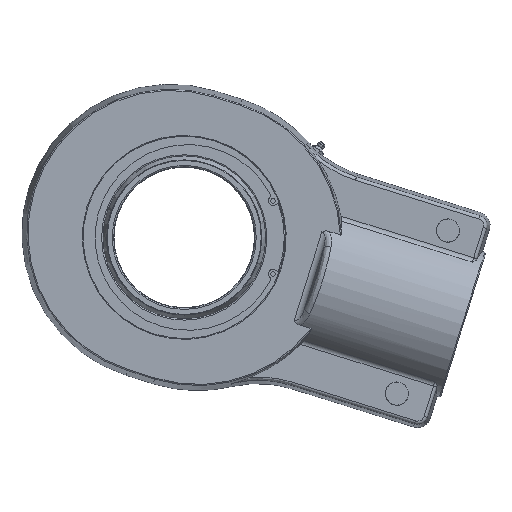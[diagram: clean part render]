
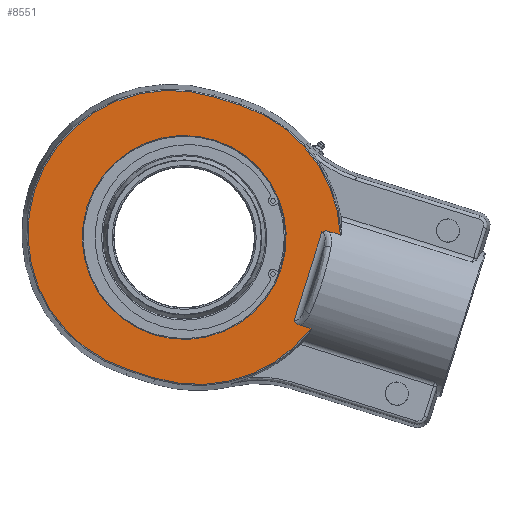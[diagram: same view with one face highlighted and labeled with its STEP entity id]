
A CAD part, left-side view. The second image highlights one B-rep face of the part: STEP entity #8551.
In plain terms, the highlighted planar face has unit normal (-1, 0, 0) as drawn and (0, 0, -1) by its records, which use the part's own axes.
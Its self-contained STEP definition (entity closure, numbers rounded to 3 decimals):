
#3686=CARTESIAN_POINT('',(-43.635,-131.852,-51.5));
#3687=VERTEX_POINT('',#3686);
#3703=CARTESIAN_POINT('',(-43.635,-121.063,-51.5));
#3704=VERTEX_POINT('',#3703);
#3705=CARTESIAN_POINT('',(-43.635,-121.063,-51.5));
#3706=DIRECTION('',(0.,-1.0,0.));
#3707=VECTOR('',#3706,10.789);
#3708=LINE('',#3705,#3707);
#3709=EDGE_CURVE('',#3704,#3687,#3708,.T.);
#3736=CARTESIAN_POINT('',(43.635,-121.063,-51.5));
#3737=VERTEX_POINT('',#3736);
#3755=CARTESIAN_POINT('',(43.635,-131.852,-51.5));
#3756=VERTEX_POINT('',#3755);
#3757=CARTESIAN_POINT('',(43.635,-131.852,-51.5));
#3758=DIRECTION('',(0.0,1.0,0.0));
#3759=VECTOR('',#3758,10.789);
#3760=LINE('',#3757,#3759);
#3761=EDGE_CURVE('',#3756,#3737,#3760,.T.);
#4496=CARTESIAN_POINT('',(0.0,90.7,-51.5));
#4497=VERTEX_POINT('',#4496);
#4498=CARTESIAN_POINT('',(0.0,0.0,-51.5));
#4499=DIRECTION('',(0.0,0.0,1.0));
#4500=DIRECTION('',(0.0,1.0,0.0));
#4501=AXIS2_PLACEMENT_3D('',#4498,#4499,#4500);
#4502=CIRCLE('',#4501,90.7);
#4503=EDGE_CURVE('',#4497,#4497,#4502,.T.);
#8347=CARTESIAN_POINT('',(127.078,-12.5,-51.5));
#8348=VERTEX_POINT('',#8347);
#8366=CARTESIAN_POINT('',(0.,-12.5,-51.5));
#8367=DIRECTION('',(0.0,0.0,1.0));
#8368=DIRECTION('',(0.819,-0.574,0.0));
#8369=AXIS2_PLACEMENT_3D('',#8366,#8367,#8368);
#8370=CIRCLE('',#8369,127.078);
#8371=EDGE_CURVE('',#3756,#8348,#8370,.T.);
#8381=CARTESIAN_POINT('',(127.078,12.5,-51.5));
#8382=VERTEX_POINT('',#8381);
#8399=CARTESIAN_POINT('',(127.078,-12.5,-51.5));
#8400=DIRECTION('',(0.0,1.0,0.0));
#8401=VECTOR('',#8400,25.);
#8402=LINE('',#8399,#8401);
#8403=EDGE_CURVE('',#8348,#8382,#8402,.T.);
#8413=CARTESIAN_POINT('',(-127.078,12.5,-51.5));
#8414=VERTEX_POINT('',#8413);
#8432=CARTESIAN_POINT('',(0.,12.5,-51.5));
#8433=DIRECTION('',(0.0,0.0,1.0));
#8434=DIRECTION('',(0.0,1.0,0.0));
#8435=AXIS2_PLACEMENT_3D('',#8432,#8433,#8434);
#8436=CIRCLE('',#8435,127.078);
#8437=EDGE_CURVE('',#8382,#8414,#8436,.T.);
#8447=CARTESIAN_POINT('',(-127.078,-12.5,-51.5));
#8448=VERTEX_POINT('',#8447);
#8465=CARTESIAN_POINT('',(-127.078,12.5,-51.5));
#8466=DIRECTION('',(0.0,-1.0,0.0));
#8467=VECTOR('',#8466,25.);
#8468=LINE('',#8465,#8467);
#8469=EDGE_CURVE('',#8414,#8448,#8468,.T.);
#8488=CARTESIAN_POINT('',(0.,-12.5,-51.5));
#8489=DIRECTION('',(0.0,0.0,1.0));
#8490=DIRECTION('',(-0.819,-0.574,0.0));
#8491=AXIS2_PLACEMENT_3D('',#8488,#8489,#8490);
#8492=CIRCLE('',#8491,127.078);
#8493=EDGE_CURVE('',#8448,#3687,#8492,.T.);
#8498=CARTESIAN_POINT('',(0.,0.0,-51.5));
#8499=DIRECTION('',(0.0,0.0,1.0));
#8500=DIRECTION('',(1.0,0.0,0.0));
#8501=AXIS2_PLACEMENT_3D('',#8498,#8499,#8500);
#8502=PLANE('',#8501);
#8503=ORIENTED_EDGE('',*,*,#8493,.F.);
#8504=ORIENTED_EDGE('',*,*,#8469,.F.);
#8505=ORIENTED_EDGE('',*,*,#8437,.F.);
#8506=ORIENTED_EDGE('',*,*,#8403,.F.);
#8507=ORIENTED_EDGE('',*,*,#8371,.F.);
#8508=ORIENTED_EDGE('',*,*,#3761,.T.);
#8509=CARTESIAN_POINT('',(41.376,-115.396,-51.5));
#8510=VERTEX_POINT('',#8509);
#8511=CARTESIAN_POINT('',(43.635,-121.063,-51.5));
#8512=CARTESIAN_POINT('',(43.635,-120.799,-51.5));
#8513=CARTESIAN_POINT('',(43.623,-120.535,-51.5));
#8514=CARTESIAN_POINT('',(43.515,-119.324,-51.5));
#8515=CARTESIAN_POINT('',(43.275,-118.395,-51.5));
#8516=CARTESIAN_POINT('',(42.479,-116.689,-51.5));
#8517=CARTESIAN_POINT('',(41.971,-115.993,-51.5));
#8518=CARTESIAN_POINT('',(41.384,-115.403,-51.5));
#8519=CARTESIAN_POINT('',(41.38,-115.4,-51.5));
#8520=CARTESIAN_POINT('',(41.376,-115.396,-51.5));
#8521=B_SPLINE_CURVE_WITH_KNOTS('',3,(#8511,#8512,#8513,#8514,#8515,#8516,#8517,#8518,#8519,#8520),.UNSPECIFIED.,.F.,.U.,(4,2,2,2,4),(0.0,0.079,0.365,0.645,0.646),.UNSPECIFIED.);
#8522=EDGE_CURVE('',#8510,#3737,#8521,.F.);
#8523=ORIENTED_EDGE('',*,*,#8522,.F.);
#8524=CARTESIAN_POINT('',(-41.376,-115.396,-51.5));
#8525=VERTEX_POINT('',#8524);
#8526=CARTESIAN_POINT('',(-41.376,-115.396,-51.5));
#8527=DIRECTION('',(1.0,0.0,0.0));
#8528=VECTOR('',#8527,82.753);
#8529=LINE('',#8526,#8528);
#8530=EDGE_CURVE('',#8525,#8510,#8529,.T.);
#8531=ORIENTED_EDGE('',*,*,#8530,.F.);
#8532=CARTESIAN_POINT('',(-41.376,-115.396,-51.5));
#8533=CARTESIAN_POINT('',(-41.38,-115.4,-51.5));
#8534=CARTESIAN_POINT('',(-41.384,-115.403,-51.5));
#8535=CARTESIAN_POINT('',(-41.753,-115.774,-51.5));
#8536=CARTESIAN_POINT('',(-42.076,-116.173,-51.5));
#8537=CARTESIAN_POINT('',(-42.639,-117.038,-51.5));
#8538=CARTESIAN_POINT('',(-42.874,-117.496,-51.5));
#8539=CARTESIAN_POINT('',(-43.449,-118.956,-51.5));
#8540=CARTESIAN_POINT('',(-43.635,-120.006,-51.5));
#8541=CARTESIAN_POINT('',(-43.635,-121.063,-51.5));
#8542=B_SPLINE_CURVE_WITH_KNOTS('',3,(#8532,#8533,#8534,#8535,#8536,#8537,#8538,#8539,#8540,#8541),.UNSPECIFIED.,.F.,.U.,(4,2,2,2,4),(-0.002,0.0,0.155,0.31,0.628),.UNSPECIFIED.);
#8543=EDGE_CURVE('',#3704,#8525,#8542,.F.);
#8544=ORIENTED_EDGE('',*,*,#8543,.F.);
#8545=ORIENTED_EDGE('',*,*,#3709,.T.);
#8546=EDGE_LOOP('',(#8503,#8504,#8505,#8506,#8507,#8508,#8523,#8531,#8544,#8545));
#8547=FACE_OUTER_BOUND('',#8546,.T.);
#8548=ORIENTED_EDGE('',*,*,#4503,.T.);
#8549=EDGE_LOOP('',(#8548));
#8550=FACE_BOUND('',#8549,.T.);
#8551=ADVANCED_FACE('',(#8547,#8550),#8502,.F.);
